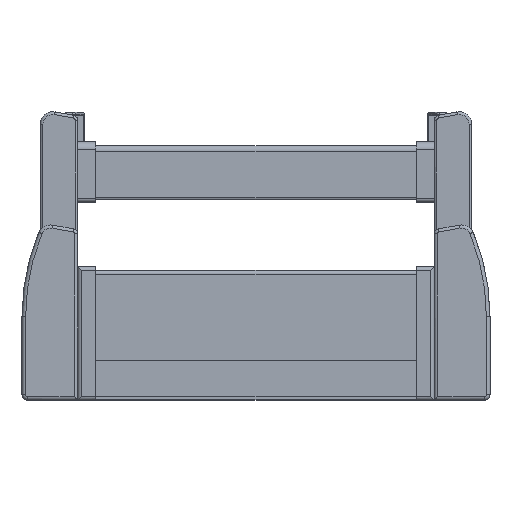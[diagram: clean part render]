
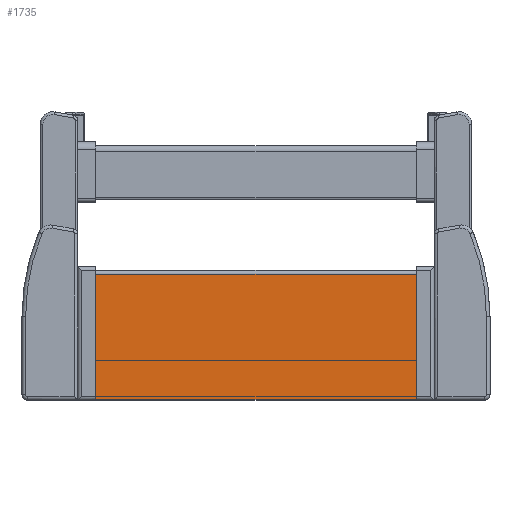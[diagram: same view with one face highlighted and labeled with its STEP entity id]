
A CAD part, top view. The second image highlights one B-rep face of the part: STEP entity #1735.
In plain terms, the highlighted planar face has unit normal (0, 0, 1).
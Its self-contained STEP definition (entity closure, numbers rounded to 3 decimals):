
#1214 = EDGE_CURVE ( 'NONE', #1331, #1216, #4139, .T. ) ;
#1216 = VERTEX_POINT ( 'NONE', #4128 ) ;
#1331 = VERTEX_POINT ( 'NONE', #4490 ) ;
#1489 = VERTEX_POINT ( 'NONE', #4695 ) ;
#1491 = EDGE_CURVE ( 'NONE', #1331, #1489, #4694, .T. ) ;
#1502 = EDGE_CURVE ( 'NONE', #1216, #1820, #4656, .T. ) ;
#1599 = ORIENTED_EDGE ( 'NONE', *, *, #1502, .F. ) ;
#1631 = ORIENTED_EDGE ( 'NONE', *, *, #1214, .F. ) ;
#1632 = ORIENTED_EDGE ( 'NONE', *, *, #1491, .T. ) ;
#1655 = EDGE_LOOP ( 'NONE', ( #1631, #1632, #1818, #1599 ) ) ;
#1735 = ADVANCED_FACE ( 'NONE', ( #5310 ), #5303, .F. ) ;
#1818 = ORIENTED_EDGE ( 'NONE', *, *, #1819, .T. ) ;
#1819 = EDGE_CURVE ( 'NONE', #1489, #1820, #5386, .T. ) ;
#1820 = VERTEX_POINT ( 'NONE', #5381 ) ;
#4128 = CARTESIAN_POINT ( 'NONE',  ( -88.8, -92.5, 1.4 ) ) ;
#4135 = DIRECTION ( 'NONE',  ( -1., 0., 0. ) ) ;
#4137 = VECTOR ( 'NONE', #4135, 1000. ) ;
#4138 = CARTESIAN_POINT ( 'NONE',  ( 162.556, -92.5, 1.4 ) ) ;
#4139 = LINE ( 'NONE', #4138, #4137 ) ;
#4490 = CARTESIAN_POINT ( 'NONE',  ( 88.8, -92.5, 1.4 ) ) ;
#4653 = DIRECTION ( 'NONE',  ( 0., 1., 0. ) ) ;
#4654 = VECTOR ( 'NONE', #4653, 1000. ) ;
#4655 = CARTESIAN_POINT ( 'NONE',  ( -88.8, -92.5, 1.4 ) ) ;
#4656 = LINE ( 'NONE', #4655, #4654 ) ;
#4691 = DIRECTION ( 'NONE',  ( 0., 1., 0. ) ) ;
#4692 = VECTOR ( 'NONE', #4691, 1000. ) ;
#4693 = CARTESIAN_POINT ( 'NONE',  ( 88.8, -92.5, 1.4 ) ) ;
#4694 = LINE ( 'NONE', #4693, #4692 ) ;
#4695 = CARTESIAN_POINT ( 'NONE',  ( 88.8, -23., 1.4 ) ) ;
#5299 = DIRECTION ( 'NONE',  ( 0., 1., 0. ) ) ;
#5300 = DIRECTION ( 'NONE',  ( 0., 0., -1. ) ) ;
#5301 = CARTESIAN_POINT ( 'NONE',  ( 162.556, -92.5, 1.4 ) ) ;
#5302 = AXIS2_PLACEMENT_3D ( 'NONE', #5301, #5300, #5299 ) ;
#5303 = PLANE ( 'NONE',  #5302 ) ;
#5310 = FACE_OUTER_BOUND ( 'NONE', #1655, .T. ) ;
#5381 = CARTESIAN_POINT ( 'NONE',  ( -88.8, -23., 1.4 ) ) ;
#5383 = DIRECTION ( 'NONE',  ( -1., 0., 0. ) ) ;
#5384 = VECTOR ( 'NONE', #5383, 1000. ) ;
#5385 = CARTESIAN_POINT ( 'NONE',  ( 162.556, -23., 1.4 ) ) ;
#5386 = LINE ( 'NONE', #5385, #5384 ) ;
